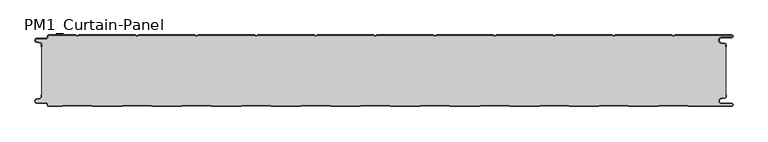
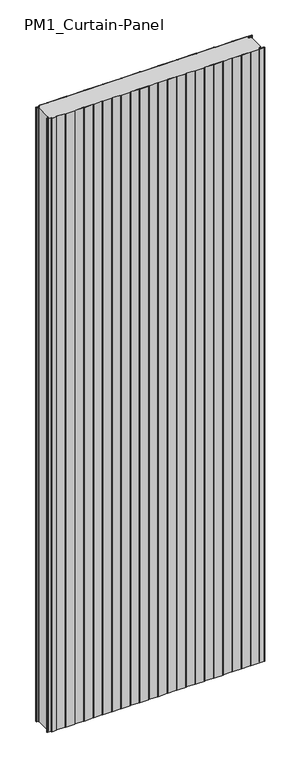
"""IFC4 building model written with IfcOpenShell, lengths in millimetres: plate geometry, PM1_Curtain-Panel : ACH_PM1_Stone-wool-Panel_120M."""

from ifc_helpers import new_model, si_unit, point, frame_2d, origin, origin_with_axes, place, context, project, spatial, polyline, circle_curve, trimmed, segment, composite_curve, outline, extrude, source, transform, mapped, element, save


def pm1_curtain_panel_e5e13730(model_context):
    return source(origin(), model_context, "Body", "SweptSolid", [
        extrude(outline(composite_curve([segment(trimmed(circle_curve(frame_2d((-577.0, -15.878557)), 2.0), [point((-575.0, -15.878557))], [point((-576.5500978, -13.9298169))], True, "CARTESIAN"), True, "CONTINUOUS"), segment(polyline([(-576.5500978, -13.9298169), (-582.7098239, -12.507732)]), True, "CONTINUOUS"), segment(trimmed(circle_curve(frame_2d((-581.9, -9.0)), 3.6), [point((-582.7098239, -12.507732))], [point((-581.9, -5.4))], False, "CARTESIAN"), True, "CONTINUOUS"), segment(polyline([(-581.9, -5.4), (-566.4, -5.4)]), True, "CONTINUOUS"), segment(trimmed(circle_curve(frame_2d((-566.4, -3.4)), 2.0), [point((-566.4, -5.4))], [point((-564.4, -3.4))], True, "CARTESIAN"), True, "CONTINUOUS"), segment(polyline([(-564.4, -3.4), (-564.4, -2.0)]), True, "CONTINUOUS"), segment(trimmed(circle_curve(frame_2d((-562.4, -2.0)), 2.0), [point((-564.4, -2.0))], [point((-562.4, 0.0))], False, "CARTESIAN"), True, "CONTINUOUS"), segment(polyline([(-562.4, 0.0), (-517.0999995, 0.0), (-514.4, -1.5588455), (-511.7000005, 0.0), (-417.0999995, 0.0), (-414.4, -1.5588455), (-411.7000005, 0.0), (-317.0999995, 0.0), (-314.4, -1.5588455), (-311.7000005, 0.0), (-217.0999995, 0.0), (-214.4, -1.5588455), (-211.7000005, 0.0), (-117.0999995, 0.0), (-114.4, -1.5588455), (-111.7000005, 0.0), (-17.0999995, 0.0), (-14.4, -1.5588455), (-11.7000005, 0.0), (82.9000005, 0.0), (85.6, -1.5588455), (88.2999995, 0.0), (182.9000005, 0.0), (185.6, -1.5588455), (188.2999995, 0.0), (282.9000005, 0.0), (285.6, -1.5588455), (288.2999995, 0.0), (382.9000005, 0.0), (385.6, -1.5588455), (388.2999995, 0.0), (482.9000005, 0.0), (485.6, -1.5588455), (488.2999995, 0.0), (583.1, 0.0)]), True, "CONTINUOUS"), segment(trimmed(circle_curve(frame_2d((583.1, -2.5)), 2.5), [point((583.1, 0.0))], [point((583.1, -5.0))], False, "CARTESIAN"), True, "CONTINUOUS"), segment(polyline([(583.1, -5.0), (566.1, -5.0)]), True, "CONTINUOUS"), segment(trimmed(circle_curve(frame_2d((566.1, -9.0)), 4.0), [point((566.1, -5.0))], [point((565.405407, -12.939231))], True, "CARTESIAN"), True, "CONTINUOUS"), segment(polyline([(565.405407, -12.939231), (571.8514855, -14.0758491)]), True, "CONTINUOUS"), segment(trimmed(circle_curve(frame_2d((571.4, -16.6363492)), 2.6), [point((571.8514855, -14.0758491))], [point((574.0, -16.6363492))], False, "CARTESIAN"), True, "CONTINUOUS"), segment(polyline([(574.0, -16.6363492), (574.0, -20.0), (573.2, -20.0), (573.2, -16.6363492)]), True, "CONTINUOUS"), segment(trimmed(circle_curve(frame_2d((571.4, -16.6363492)), 1.8), [point((573.2, -16.6363492))], [point((571.7125669, -14.8636953))], True, "CARTESIAN"), True, "CONTINUOUS"), segment(polyline([(571.7125669, -14.8636953), (565.2664884, -13.7270772)]), True, "CONTINUOUS"), segment(trimmed(circle_curve(frame_2d((566.1, -9.0)), 4.8), [point((565.2664884, -13.7270772))], [point((566.1, -4.2))], False, "CARTESIAN"), True, "CONTINUOUS"), segment(polyline([(566.1, -4.2), (583.1, -4.2)]), True, "CONTINUOUS"), segment(trimmed(circle_curve(frame_2d((583.1, -2.5)), 1.7), [point((583.1, -4.2))], [point((583.1, -0.8))], True, "CARTESIAN"), True, "CONTINUOUS"), segment(polyline([(583.1, -0.8), (488.5143588, -0.8), (485.6, -2.482606), (482.6856412, -0.8), (388.5143588, -0.8), (385.6, -2.482606), (382.6856412, -0.8), (288.5143588, -0.8), (285.6, -2.482606), (282.6856412, -0.8), (188.5143588, -0.8), (185.6, -2.482606), (182.6856412, -0.8), (88.5143588, -0.8), (85.6, -2.482606), (82.6856412, -0.8), (-11.4856412, -0.8), (-14.4, -2.482606), (-17.3143588, -0.8), (-111.4856412, -0.8), (-114.4, -2.482606), (-117.3143588, -0.8), (-211.4856412, -0.8), (-214.4, -2.482606), (-217.3143588, -0.8), (-311.4856412, -0.8), (-314.4, -2.482606), (-317.3143588, -0.8), (-411.4856412, -0.8), (-414.4, -2.482606), (-417.3143588, -0.8), (-511.4856412, -0.8), (-514.4, -2.482606), (-517.3143588, -0.8), (-562.4, -0.8)]), True, "CONTINUOUS"), segment(trimmed(circle_curve(frame_2d((-562.4, -2.0)), 1.2), [point((-562.4, -0.8))], [point((-563.6, -2.0))], True, "CARTESIAN"), True, "CONTINUOUS"), segment(polyline([(-563.6, -2.0), (-563.6, -3.4)]), True, "CONTINUOUS"), segment(trimmed(circle_curve(frame_2d((-566.4, -3.4)), 2.8), [point((-563.6, -3.4))], [point((-566.4, -6.2))], False, "CARTESIAN"), True, "CONTINUOUS"), segment(polyline([(-566.4, -6.2), (-581.9, -6.2)]), True, "CONTINUOUS"), segment(trimmed(circle_curve(frame_2d((-581.9, -9.0)), 2.8), [point((-581.9, -6.2))], [point((-582.529863, -11.7282362))], True, "CARTESIAN"), True, "CONTINUOUS"), segment(polyline([(-582.529863, -11.7282362), (-576.370137, -13.150321)]), True, "CONTINUOUS"), segment(trimmed(circle_curve(frame_2d((-577.0, -15.878557)), 2.8), [point((-576.370137, -13.150321))], [point((-574.2, -15.878557))], False, "CARTESIAN"), True, "CONTINUOUS"), segment(polyline([(-574.2, -15.878557), (-574.2, -20.0), (-575.0, -20.0), (-575.0, -15.878557)]), True, "CONTINUOUS")], self_intersect=False)), origin_with_axes(), (0.0, 0.0, 1.0), 3500.0),
        extrude(outline(composite_curve([segment(polyline([(-574.2, -104.121443), (-574.2, -15.8785573)]), True, "CONTINUOUS"), segment(trimmed(circle_curve(frame_2d((-577.0, -15.8785573)), 2.8), [point((-574.2, -15.8785573))], [point((-576.370137, -13.1503212))], True, "CARTESIAN"), True, "CONTINUOUS"), segment(polyline([(-576.370137, -13.1503212), (-582.5298631, -11.7282362)]), True, "CONTINUOUS"), segment(trimmed(circle_curve(frame_2d((-581.9, -9.0)), 2.8), [point((-582.5298631, -11.7282362))], [point((-581.9, -6.2))], False, "CARTESIAN"), True, "CONTINUOUS"), segment(polyline([(-581.9, -6.2), (-566.4000001, -6.2)]), True, "CONTINUOUS"), segment(trimmed(circle_curve(frame_2d((-566.4000001, -3.4)), 2.8), [point((-566.4000001, -6.2))], [point((-563.6000001, -3.4))], True, "CARTESIAN"), True, "CONTINUOUS"), segment(polyline([(-563.6000001, -3.4), (-563.6000001, -2.0)]), True, "CONTINUOUS"), segment(trimmed(circle_curve(frame_2d((-562.4000001, -2.0)), 1.2), [point((-563.6000001, -2.0))], [point((-562.4000001, -0.8))], False, "CARTESIAN"), True, "CONTINUOUS"), segment(polyline([(-562.4000001, -0.8), (-517.3143589, -0.8), (-514.4000001, -2.482606), (-511.4856412, -0.8), (-417.3143589, -0.8), (-414.4000001, -2.482606), (-411.4856412, -0.8), (-317.3143589, -0.8), (-314.4000001, -2.482606), (-311.4856412, -0.8), (-217.3143589, -0.8), (-214.4000001, -2.482606), (-211.4856412, -0.8), (-117.3143589, -0.8), (-114.4000001, -2.482606), (-111.4856412, -0.8), (-17.3143589, -0.8), (-14.4000001, -2.482606), (-11.4856412, -0.8), (82.6856411, -0.8), (85.5999999, -2.482606), (88.5143588, -0.8), (182.6856411, -0.8), (185.5999999, -2.482606), (188.5143588, -0.8), (282.6856411, -0.8), (285.5999999, -2.482606), (288.5143588, -0.8), (382.6856411, -0.8), (385.5999999, -2.482606), (388.5143588, -0.8), (482.6856411, -0.8), (485.6, -2.482606), (488.5143588, -0.8), (583.1, -0.8)]), True, "CONTINUOUS"), segment(trimmed(circle_curve(frame_2d((583.1, -2.5)), 1.7), [point((583.1, -0.8))], [point((583.1, -4.2))], False, "CARTESIAN"), True, "CONTINUOUS"), segment(polyline([(583.1, -4.2), (566.1, -4.2)]), True, "CONTINUOUS"), segment(trimmed(circle_curve(frame_2d((566.1, -9.0)), 4.8), [point((566.1, -4.2))], [point((565.2664883, -13.7270771))], True, "CARTESIAN"), True, "CONTINUOUS"), segment(polyline([(565.2664883, -13.7270771), (571.7125668, -14.8636953)]), True, "CONTINUOUS"), segment(trimmed(circle_curve(frame_2d((571.4, -16.6363492)), 1.8), [point((571.7125668, -14.8636953))], [point((573.2, -16.6363492))], False, "CARTESIAN"), True, "CONTINUOUS"), segment(polyline([(573.2, -16.6363492), (573.2, -103.363652)]), True, "CONTINUOUS"), segment(trimmed(circle_curve(frame_2d((571.4, -103.363652)), 1.8), [point((573.2, -103.363652))], [point((571.7125666, -105.1363059))], False, "CARTESIAN"), True, "CONTINUOUS"), segment(polyline([(571.7125666, -105.1363059), (565.266489, -106.272923)]), True, "CONTINUOUS"), segment(trimmed(circle_curve(frame_2d((566.1, -111.0000002)), 4.7999999), [point((565.266489, -106.272923))], [point((566.1, -115.8000001))], True, "CARTESIAN"), True, "CONTINUOUS"), segment(polyline([(566.1, -115.8000001), (583.1, -115.8000001)]), True, "CONTINUOUS"), segment(trimmed(circle_curve(frame_2d((583.1, -117.5)), 1.7), [point((583.1, -115.8000001))], [point((583.1, -119.2))], False, "CARTESIAN"), True, "CONTINUOUS"), segment(polyline([(583.1, -119.2), (510.8105122, -119.2), (508.2124346, -117.7), (462.9837184, -117.7), (460.3856408, -119.2), (410.8105122, -119.2), (408.2124346, -117.7), (362.9837184, -117.7), (360.3856408, -119.2), (310.8105122, -119.2), (308.2124346, -117.7), (262.9837184, -117.7), (260.3856408, -119.2), (210.8105122, -119.2), (208.2124346, -117.7), (162.9837184, -117.7), (160.3856408, -119.2), (110.8105122, -119.2), (108.2124346, -117.7), (62.9837184, -117.7), (60.3856408, -119.2), (10.8105122, -119.2), (8.2124346, -117.7), (-37.0162816, -117.7), (-39.6143592, -119.2), (-89.1894878, -119.2), (-91.7875654, -117.7), (-137.0162816, -117.7), (-139.6143592, -119.2), (-189.1894878, -119.2), (-191.7875654, -117.7), (-237.0162816, -117.7), (-239.6143592, -119.2), (-289.1894878, -119.2), (-291.7875654, -117.7), (-337.0162816, -117.7), (-339.6143592, -119.2), (-389.1894878, -119.2), (-391.7875654, -117.7), (-437.0162816, -117.7), (-439.6143592, -119.2), (-489.1894878, -119.2), (-491.7875654, -117.7), (-537.0162816, -117.7), (-539.6143592, -119.2), (-562.4, -119.2)]), True, "CONTINUOUS"), segment(trimmed(circle_curve(frame_2d((-562.4, -118.0)), 1.2), [point((-562.4, -119.2))], [point((-563.6, -118.0))], False, "CARTESIAN"), True, "CONTINUOUS"), segment(polyline([(-563.6, -118.0), (-563.6, -116.5999998)]), True, "CONTINUOUS"), segment(trimmed(circle_curve(frame_2d((-566.4, -116.5999998)), 2.8), [point((-563.6, -116.5999998))], [point((-566.4, -113.7999998))], True, "CARTESIAN"), True, "CONTINUOUS"), segment(polyline([(-566.4, -113.7999998), (-581.9, -113.7999998)]), True, "CONTINUOUS"), segment(trimmed(circle_curve(frame_2d((-581.9, -111.0)), 2.7999998), [point((-581.9, -113.7999998))], [point((-582.529863, -108.271764))], False, "CARTESIAN"), True, "CONTINUOUS"), segment(polyline([(-582.529863, -108.271764), (-576.370137, -106.8496792)]), True, "CONTINUOUS"), segment(trimmed(circle_curve(frame_2d((-577.0, -104.121443)), 2.8), [point((-576.370137, -106.8496792))], [point((-574.2, -104.121443))], True, "CARTESIAN"), True, "CONTINUOUS")], self_intersect=False)), origin_with_axes(), (0.0, 0.0, 1.0), 3500.0),
        extrude(outline(composite_curve([segment(trimmed(circle_curve(frame_2d((-562.4, -118.0)), 2.0), [point((-562.4, -120.0))], [point((-564.4, -118.0))], False, "CARTESIAN"), True, "CONTINUOUS"), segment(polyline([(-564.4, -118.0), (-564.4, -116.6)]), True, "CONTINUOUS"), segment(trimmed(circle_curve(frame_2d((-566.4, -116.6)), 2.0), [point((-564.4, -116.6))], [point((-566.4, -114.6))], True, "CARTESIAN"), True, "CONTINUOUS"), segment(polyline([(-566.4, -114.6), (-581.9, -114.6)]), True, "CONTINUOUS"), segment(trimmed(circle_curve(frame_2d((-581.9, -111.0)), 3.6), [point((-581.9, -114.6))], [point((-582.7098239, -107.4922678))], False, "CARTESIAN"), True, "CONTINUOUS"), segment(polyline([(-582.7098239, -107.4922678), (-576.5500979, -106.070183)]), True, "CONTINUOUS"), segment(trimmed(circle_curve(frame_2d((-577.0, -104.121443)), 2.0), [point((-576.5500979, -106.070183))], [point((-575.0, -104.121443))], True, "CARTESIAN"), True, "CONTINUOUS"), segment(polyline([(-575.0, -104.121443), (-575.0, -100.0), (-574.2, -100.0), (-574.2, -104.121443)]), True, "CONTINUOUS"), segment(trimmed(circle_curve(frame_2d((-577.0, -104.121443)), 2.8), [point((-574.2, -104.121443))], [point((-576.370137, -106.8496792))], False, "CARTESIAN"), True, "CONTINUOUS"), segment(polyline([(-576.370137, -106.8496792), (-582.529863, -108.271764)]), True, "CONTINUOUS"), segment(trimmed(circle_curve(frame_2d((-581.9, -111.0)), 2.8), [point((-582.529863, -108.271764))], [point((-581.9, -113.8))], True, "CARTESIAN"), True, "CONTINUOUS"), segment(polyline([(-581.9, -113.8), (-566.4, -113.8)]), True, "CONTINUOUS"), segment(trimmed(circle_curve(frame_2d((-566.4, -116.6)), 2.8), [point((-566.4, -113.8))], [point((-563.6, -116.6))], False, "CARTESIAN"), True, "CONTINUOUS"), segment(polyline([(-563.6, -116.6), (-563.6, -118.0)]), True, "CONTINUOUS"), segment(trimmed(circle_curve(frame_2d((-562.4, -118.0)), 1.2), [point((-563.6, -118.0))], [point((-562.4, -119.2))], True, "CARTESIAN"), True, "CONTINUOUS"), segment(polyline([(-562.4, -119.2), (-539.6143592, -119.2), (-537.0162816, -117.7), (-491.7875654, -117.7), (-489.1894878, -119.2), (-439.6143592, -119.2), (-437.0162816, -117.7), (-391.7875654, -117.7), (-389.1894878, -119.2), (-339.6143592, -119.2), (-337.0162816, -117.7), (-291.7875654, -117.7), (-289.1894878, -119.2), (-239.6143592, -119.2), (-237.0162816, -117.7), (-191.7875654, -117.7), (-189.1894878, -119.2), (-139.6143592, -119.2), (-137.0162816, -117.7), (-91.7875654, -117.7), (-89.1894878, -119.2), (-39.6143592, -119.2), (-37.0162816, -117.7), (8.2124346, -117.7), (10.8105122, -119.2), (60.3856408, -119.2), (62.9837184, -117.7), (108.2124346, -117.7), (110.8105122, -119.2), (160.3856408, -119.2), (162.9837184, -117.7), (208.2124346, -117.7), (210.8105122, -119.2), (260.3856408, -119.2), (262.9837184, -117.7), (308.2124346, -117.7), (310.8105122, -119.2), (360.3856408, -119.2), (362.9837184, -117.7), (408.2124346, -117.7), (410.8105122, -119.2), (460.3856408, -119.2), (462.9837184, -117.7), (508.2124346, -117.7), (510.8105122, -119.2), (583.1, -119.2)]), True, "CONTINUOUS"), segment(trimmed(circle_curve(frame_2d((583.1, -117.5)), 1.7), [point((583.1, -119.2))], [point((583.1, -115.8))], True, "CARTESIAN"), True, "CONTINUOUS"), segment(polyline([(583.1, -115.8), (566.1, -115.8)]), True, "CONTINUOUS"), segment(trimmed(circle_curve(frame_2d((566.1, -111.0)), 4.8), [point((566.1, -115.8))], [point((565.266489, -106.2729227))], False, "CARTESIAN"), True, "CONTINUOUS"), segment(polyline([(565.266489, -106.2729227), (571.7125666, -105.1363058)]), True, "CONTINUOUS"), segment(trimmed(circle_curve(frame_2d((571.4, -103.363652)), 1.8), [point((571.7125666, -105.1363058))], [point((573.2, -103.363652))], True, "CARTESIAN"), True, "CONTINUOUS"), segment(polyline([(573.2, -103.363652), (573.2, -100.0), (574.0, -100.0), (574.0, -103.363652)]), True, "CONTINUOUS"), segment(trimmed(circle_curve(frame_2d((571.4, -103.363652)), 2.6), [point((574.0, -103.363652))], [point((571.8514851, -105.9241522))], False, "CARTESIAN"), True, "CONTINUOUS"), segment(polyline([(571.8514851, -105.9241522), (565.4054075, -107.0607691)]), True, "CONTINUOUS"), segment(trimmed(circle_curve(frame_2d((566.1, -111.0)), 4.0), [point((565.4054075, -107.0607691))], [point((566.1, -115.0))], True, "CARTESIAN"), True, "CONTINUOUS"), segment(polyline([(566.1, -115.0), (583.1, -115.0)]), True, "CONTINUOUS"), segment(trimmed(circle_curve(frame_2d((583.1, -117.5)), 2.5), [point((583.1, -115.0))], [point((583.1, -120.0))], False, "CARTESIAN"), True, "CONTINUOUS"), segment(polyline([(583.1, -120.0), (510.5961529, -120.0), (507.9980753, -118.5), (463.1980777, -118.5), (460.6000001, -120.0), (410.5961529, -120.0), (407.9980753, -118.5), (363.1980777, -118.5), (360.6000001, -120.0), (310.5961529, -120.0), (307.9980753, -118.5), (263.1980777, -118.5), (260.6000001, -120.0), (210.5961529, -120.0), (207.9980753, -118.5), (163.1980777, -118.5), (160.6000001, -120.0), (110.5961529, -120.0), (107.9980753, -118.5), (63.1980777, -118.5), (60.6000001, -120.0), (10.5961529, -120.0), (7.9980753, -118.5), (-36.8019223, -118.5), (-39.3999999, -120.0), (-89.4038471, -120.0), (-92.0019247, -118.5), (-136.8019223, -118.5), (-139.3999999, -120.0), (-189.4038471, -120.0), (-192.0019247, -118.5), (-236.8019223, -118.5), (-239.3999999, -120.0), (-289.4038471, -120.0), (-292.0019247, -118.5), (-336.8019223, -118.5), (-339.3999999, -120.0), (-389.4038471, -120.0), (-392.0019247, -118.5), (-436.8019223, -118.5), (-439.3999999, -120.0), (-489.4038471, -120.0), (-492.0019247, -118.5), (-536.8019223, -118.5), (-539.3999999, -120.0), (-562.4, -120.0)]), True, "CONTINUOUS")], self_intersect=False)), origin_with_axes(), (0.0, 0.0, 1.0), 3500.0),
    ])


if __name__ == "__main__":
    model = new_model("IFC4")
    model_context = context("Model", 3, world=origin())
    ifc_project = project(units=[si_unit("LENGTHUNIT", "METRE", prefix="MILLI")], contexts=[model_context])
    site = spatial("IfcSite", under=ifc_project)
    building = spatial("IfcBuilding", under=site)
    placement = place(None, origin())
    pm1_curtain_panel_shape = pm1_curtain_panel_e5e13730(model_context)
    element("IfcPlate", 1, ObjectType="PM1_Curtain-Panel : ACH_PM1_Stone-wool-Panel_120M", at=placement, inside=building, context=model_context, shape_type="MappedRepresentation", body=[
        mapped(pm1_curtain_panel_shape, transform((0.0, 0.0, 0.0), x_axis=(1.0, 0.0, 0.0), y_axis=(0.0, 1.0, 0.0), z_axis=(0.0, 0.0, 1.0))),
    ])
    save(model, "model.ifc")
